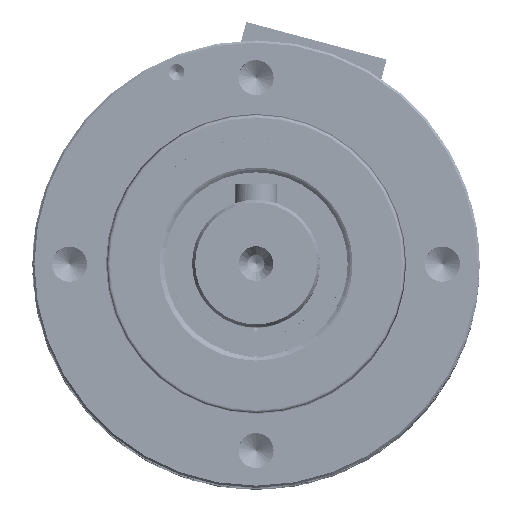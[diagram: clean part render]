
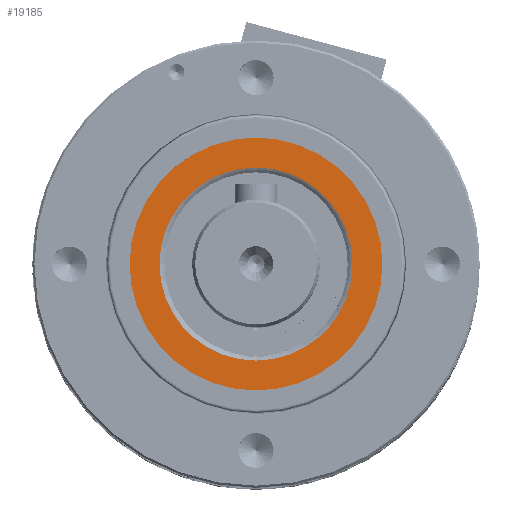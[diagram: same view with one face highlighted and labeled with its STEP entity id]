
A CAD part, top view. The second image highlights one B-rep face of the part: STEP entity #19185.
In plain terms, the highlighted planar face has unit normal (0, 0, 1).
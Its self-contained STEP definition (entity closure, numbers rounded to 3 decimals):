
#1839 = CARTESIAN_POINT ( 'NONE',  ( -3.929, -8.599, 109.685 ) ) ;
#19185 = ADVANCED_FACE ( 'NONE', ( #254341, #165380 ), #140705, .T. ) ;
#19773 = AXIS2_PLACEMENT_3D ( 'NONE', #270738, #276307, #187391 ) ;
#20545 = EDGE_CURVE ( 'NONE', #351363, #99494, #66498, .T. ) ;
#28505 = ORIENTED_EDGE ( 'NONE', *, *, #39549, .T. ) ;
#31942 = CIRCLE ( 'NONE', #19773, 9.06 ) ;
#38033 = CIRCLE ( 'NONE', #249653, 11.865 ) ;
#39549 = EDGE_CURVE ( 'NONE', #358084, #169215, #31942, .T. ) ;
#51758 = DIRECTION ( 'NONE',  ( 0., 0., 1. ) ) ;
#61662 = CIRCLE ( 'NONE', #303484, 9.06 ) ;
#66498 = CIRCLE ( 'NONE', #368822, 11.865 ) ;
#98473 = DIRECTION ( 'NONE',  ( 0., 0., 1. ) ) ;
#99369 = ORIENTED_EDGE ( 'NONE', *, *, #20545, .T. ) ;
#99494 = VERTEX_POINT ( 'NONE', #138537 ) ;
#102433 = CARTESIAN_POINT ( 'NONE',  ( 16.996, -8.599, 109.685 ) ) ;
#126756 = ORIENTED_EDGE ( 'NONE', *, *, #294980, .F. ) ;
#133170 = CARTESIAN_POINT ( 'NONE',  ( 5.131, -8.599, 109.685 ) ) ;
#138537 = CARTESIAN_POINT ( 'NONE',  ( -6.734, -8.599, 109.685 ) ) ;
#140705 = PLANE ( 'NONE',  #271635 ) ;
#143657 = ORIENTED_EDGE ( 'NONE', *, *, #260654, .F. ) ;
#165380 = FACE_OUTER_BOUND ( 'NONE', #330252, .T. ) ;
#169215 = VERTEX_POINT ( 'NONE', #1839 ) ;
#181740 = CARTESIAN_POINT ( 'NONE',  ( 5.131, -8.599, 109.685 ) ) ;
#185497 = DIRECTION ( 'NONE',  ( 1., 0., 0. ) ) ;
#187391 = DIRECTION ( 'NONE',  ( 1., 0., 0. ) ) ;
#197484 = DIRECTION ( 'NONE',  ( 1., 0., 0. ) ) ;
#224116 = EDGE_LOOP ( 'NONE', ( #143657, #28505 ) ) ;
#227652 = DIRECTION ( 'NONE',  ( 1., 0., 0. ) ) ;
#227699 = CARTESIAN_POINT ( 'NONE',  ( 5.131, -8.599, 109.685 ) ) ;
#248636 = DIRECTION ( 'NONE',  ( 0., 0., -1. ) ) ;
#249653 = AXIS2_PLACEMENT_3D ( 'NONE', #133170, #248636, #227652 ) ;
#252462 = DIRECTION ( 'NONE',  ( 0., 0., 1. ) ) ;
#254341 = FACE_BOUND ( 'NONE', #224116, .T. ) ;
#255097 = CARTESIAN_POINT ( 'NONE',  ( 14.191, -8.599, 109.685 ) ) ;
#260654 = EDGE_CURVE ( 'NONE', #358084, #169215, #61662, .T. ) ;
#270738 = CARTESIAN_POINT ( 'NONE',  ( 5.131, -8.599, 109.685 ) ) ;
#271635 = AXIS2_PLACEMENT_3D ( 'NONE', #339498, #252462, #197484 ) ;
#276307 = DIRECTION ( 'NONE',  ( 0., 0., -1. ) ) ;
#294980 = EDGE_CURVE ( 'NONE', #351363, #99494, #38033, .T. ) ;
#303484 = AXIS2_PLACEMENT_3D ( 'NONE', #227699, #51758, #343177 ) ;
#330252 = EDGE_LOOP ( 'NONE', ( #126756, #99369 ) ) ;
#339498 = CARTESIAN_POINT ( 'NONE',  ( 5.131, -8.599, 109.685 ) ) ;
#343177 = DIRECTION ( 'NONE',  ( 1., 0., 0. ) ) ;
#351363 = VERTEX_POINT ( 'NONE', #102433 ) ;
#358084 = VERTEX_POINT ( 'NONE', #255097 ) ;
#368822 = AXIS2_PLACEMENT_3D ( 'NONE', #181740, #98473, #185497 ) ;
